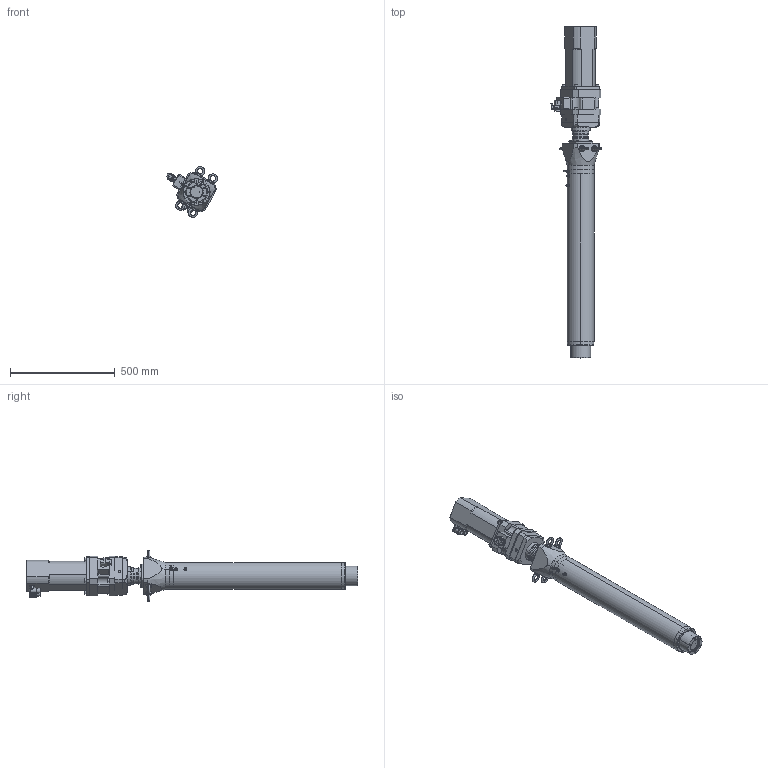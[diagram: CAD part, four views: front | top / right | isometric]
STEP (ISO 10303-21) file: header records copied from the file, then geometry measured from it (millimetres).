
FILE_DESCRIPTION (( 'STEP AP214' ), '1' );
FILE_NAME ('RLWIK030D-055-025SG0.STEP', '2023-04-05T14:05:39', ( '' ), ( '' ), 'SwSTEP 2.0', 'SolidWorks 2021', '' );
FILE_SCHEMA (( 'AUTOMOTIVE_DESIGN' ));
Length unit declared in the file: millimetre
Products named in the file (1): RLWIK030D-055-025SG0
Bounding box: 244.57 x 1587.5 x 244.54 mm (x, y, z)
Volume: 18141776.1 mm3; surface area: 1752427.4 mm2
Topology: 38 solids, 38 shells, 1401 faces, 3305 edges, 1993 vertices
Faces by surface type: cylinder 559, plane 478, cone 264, torus 80, bspline 18, sphere 2
Entity records: 57536 total; most frequent: CARTESIAN_POINT 9198, DIRECTION 7270, ORIENTED_EDGE 6338, EDGE_CURVE 3169, AXIS2_PLACEMENT_3D 2877, VERTEX_POINT 1993, EDGE_LOOP 1646, VECTOR 1516
